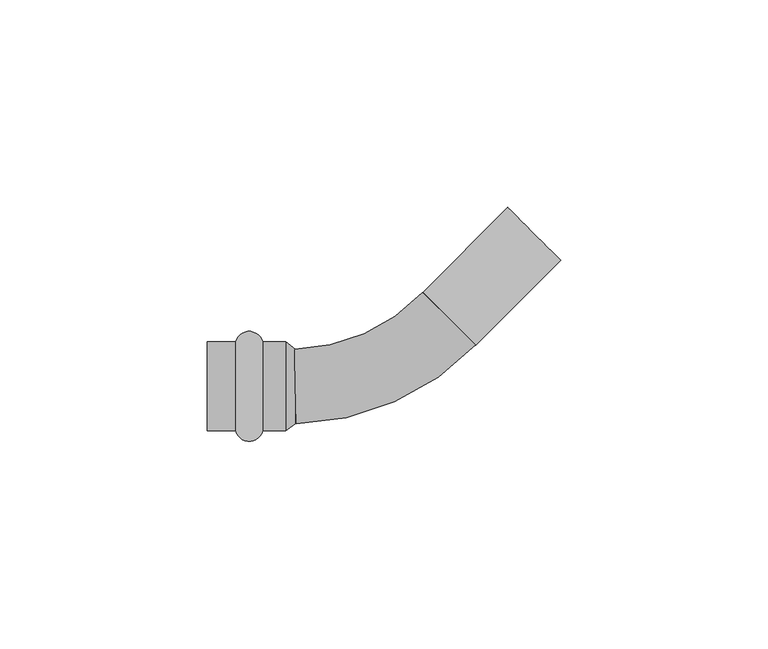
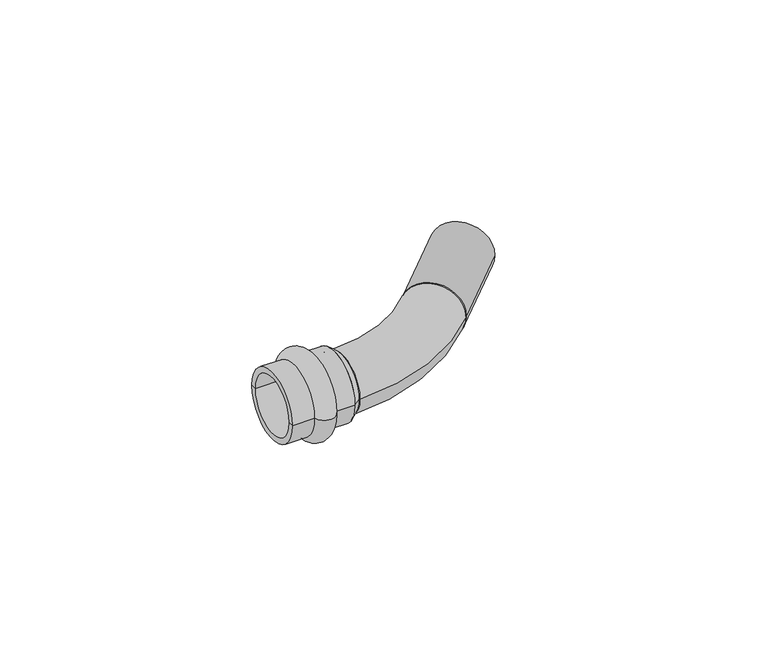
"""IFC4 building model written with IfcOpenShell, lengths in millimetres: pipe fitting geometry, VALTEC_VTi.958.I_Угольник 45° (раструб–труба) нержавеющая сталь. : VTi.958.I."""

import ifcopenshell
import ifcopenshell.guid

model = None  # the IFC model being written
_history = None  # IfcOwnerHistory: only IFC2X3 demands one
_inside = {}  # id of a spatial element -> (the spatial element, [elements in it])
_under = {}  # id of a project, library or spatial element -> (it, [spatial elements below it])
_declared = {}  # id of a project -> (the project, [libraries it declares])
_typed = {}  # id of a type object -> (the type object, [elements of that type])
_made_of = {}  # id of a material, layer set ... -> (it, [elements and type objects made of it])


def new_model(schema):
    """Start an empty IFC model of exactly this schema.

    Asked for "IFC4X3", IfcOpenShell would pick the latest addendum, in which some entities
    have other attributes; the version numbers below select the first issue.
    IFC2X3 requires an IfcOwnerHistory on every rooted entity: one is made here for all.
    """
    global model, _history
    if schema == "IFC4X3":
        model = ifcopenshell.file(schema_version=(4, 3, 0, 0))
    else:
        model = ifcopenshell.file(schema=schema)
    _inside.clear()
    _under.clear()
    _declared.clear()
    _typed.clear()
    _made_of.clear()
    _history = None
    if model.schema == "IFC2X3":
        org = make("IfcOrganization", Name="unknown")
        user = make(
            "IfcPersonAndOrganization",
            ThePerson=make("IfcPerson", FamilyName="unknown"),
            TheOrganization=org,
        )
        app = make(
            "IfcApplication",
            ApplicationDeveloper=org,
            Version="unknown",
            ApplicationFullName="unknown",
            ApplicationIdentifier="unknown",
        )
        _history = make(
            "IfcOwnerHistory",
            OwningUser=user,
            OwningApplication=app,
            ChangeAction="ADDED",
            CreationDate=0,
        )
    return model


def make(cls, **values):
    """One entity of the class cls with the attributes given. An attribute that is None is left unset."""
    return model.create_entity(
        cls, **{name: value for name, value in values.items() if value is not None}
    )


def rooted(cls, **values):
    """An entity with a GlobalId (a new one), such as an element, a storey or a relation."""
    return make(cls, GlobalId=ifcopenshell.guid.new(), OwnerHistory=_history, **values)


def si_unit(unit_type, name, prefix=None):
    """IfcSIUnit, for example si_unit("LENGTHUNIT", "METRE", prefix="MILLI")."""
    return make("IfcSIUnit", UnitType=unit_type, Prefix=prefix, Name=name)


def assignment(units):
    """IfcUnitAssignment: the units of a project."""
    return None if units is None else make("IfcUnitAssignment", Units=units)


def point(xyz):
    """IfcCartesianPoint."""
    return None if xyz is None else make("IfcCartesianPoint", Coordinates=xyz)


def direction(xyz):
    """IfcDirection."""
    return None if xyz is None else make("IfcDirection", DirectionRatios=xyz)


def frame(location, z_axis=None, x_axis=None):
    """IfcAxis2Placement3D, a coordinate frame: its origin and axes. An axis left out is left unset."""
    return make(
        "IfcAxis2Placement3D",
        Location=point(location),
        Axis=direction(z_axis),
        RefDirection=direction(x_axis),
    )


def frame_2d(location, x_axis=None):
    """IfcAxis2Placement2D, a coordinate frame in the plane: its origin and x axis."""
    return make(
        "IfcAxis2Placement2D", Location=point(location), RefDirection=direction(x_axis)
    )


def origin():
    """The frame at (0, 0, 0) with its axes left unset."""
    return frame((0.0, 0.0, 0.0))


def origin_2d():
    """The frame at (0, 0) in the plane with its x axis left unset."""
    return frame_2d((0.0, 0.0))


def place(relative_to, where):
    """IfcLocalPlacement: puts the frame where relative to a parent placement (None: the world)."""
    return make(
        "IfcLocalPlacement", PlacementRelTo=relative_to, RelativePlacement=where
    )


def context(
    kind, dimensions, precision=None, world=None, true_north=None, identifier=None
):
    """IfcGeometricRepresentationContext, for example the 3D "Model" context."""
    return make(
        "IfcGeometricRepresentationContext",
        ContextIdentifier=identifier,
        ContextType=kind,
        CoordinateSpaceDimension=dimensions,
        Precision=precision,
        WorldCoordinateSystem=world,
        TrueNorth=true_north,
    )


def project(units=None, contexts=None):
    """IfcProject with its units and contexts."""
    return rooted(
        "IfcProject",
        Name="project",
        RepresentationContexts=contexts,
        UnitsInContext=assignment(units),
    )


def spatial(cls, under=None, at=None, **own):
    """A site, building, storey or space (cls), placed at a placement, below another one or the project."""
    s = rooted(cls, ObjectPlacement=at, **own)
    if under is not None:
        _under.setdefault(under.id(), (under, []))[1].append(s)
    return s


def polyline(points):
    """IfcPolyline through the points."""
    return make("IfcPolyline", Points=[point(p) for p in points])


def circle_curve(where, radius):
    """IfcCircle in the frame where."""
    return make("IfcCircle", Position=where, Radius=radius)


def ellipse_curve(where, semi_axis1, semi_axis2):
    """IfcEllipse in the frame where."""
    return make(
        "IfcEllipse", Position=where, SemiAxis1=semi_axis1, SemiAxis2=semi_axis2
    )


def trimmed(basis, trim1, trim2, sense, master):
    """IfcTrimmedCurve: the piece of a basis curve between two trims."""
    return make(
        "IfcTrimmedCurve",
        BasisCurve=basis,
        Trim1=trim1,
        Trim2=trim2,
        SenseAgreement=sense,
        MasterRepresentation=master,
    )


def segment(curve, same_sense, transition):
    """IfcCompositeCurveSegment."""
    return make(
        "IfcCompositeCurveSegment",
        Transition=transition,
        SameSense=same_sense,
        ParentCurve=curve,
    )


def composite_curve(segments, self_intersect=None):
    """IfcCompositeCurve: segments joined end to end."""
    return make("IfcCompositeCurve", Segments=segments, SelfIntersect=self_intersect)


def outline(outer, holes=None, kind="AREA"):
    """IfcArbitraryClosedProfileDef: a profile drawn as a closed curve; with holes, ...WithVoids."""
    if holes is None:
        return make("IfcArbitraryClosedProfileDef", ProfileType=kind, OuterCurve=outer)
    return make(
        "IfcArbitraryProfileDefWithVoids",
        ProfileType=kind,
        OuterCurve=outer,
        InnerCurves=holes,
    )


def extrude(swept, where, along, depth):
    """IfcExtrudedAreaSolid: the profile swept, set in the frame where, extruded along a direction by depth."""
    return make(
        "IfcExtrudedAreaSolid",
        SweptArea=swept,
        Position=where,
        ExtrudedDirection=direction(along),
        Depth=depth,
    )


def shape(context_of_items, identifier, shape_type, items):
    """IfcShapeRepresentation: the items that make up one representation, for example the "Body"."""
    return make(
        "IfcShapeRepresentation",
        ContextOfItems=context_of_items,
        RepresentationIdentifier=identifier,
        RepresentationType=shape_type,
        Items=items,
    )


def source(mapping_origin, context_of_items, identifier, shape_type, items):
    """IfcRepresentationMap: a shape defined once, which mapped items show again and again."""
    return make(
        "IfcRepresentationMap",
        MappingOrigin=mapping_origin,
        MappedRepresentation=shape(context_of_items, identifier, shape_type, items),
    )


def transform(
    local_origin,
    x_axis=None,
    y_axis=None,
    z_axis=None,
    scale=None,
    scale2=None,
    scale3=None,
    uniform=True,
):
    """IfcCartesianTransformationOperator3D, or its non-uniform kind. x_axis, y_axis, z_axis: its Axis1, 2, 3."""
    if uniform:
        return make(
            "IfcCartesianTransformationOperator3D",
            Axis1=direction(x_axis),
            Axis2=direction(y_axis),
            LocalOrigin=point(local_origin),
            Scale=scale,
            Axis3=direction(z_axis),
        )
    return make(
        "IfcCartesianTransformationOperator3DnonUniform",
        Axis1=direction(x_axis),
        Axis2=direction(y_axis),
        LocalOrigin=point(local_origin),
        Scale=scale,
        Axis3=direction(z_axis),
        Scale2=scale2,
        Scale3=scale3,
    )


def mapped(mapping_source, mapping_target):
    """IfcMappedItem: shows the shape of a source again, moved by a transform."""
    return make(
        "IfcMappedItem", MappingSource=mapping_source, MappingTarget=mapping_target
    )


def made_of(thing, what):
    """Note that an element or type object is made of a material, layer set ...; save() writes the relation."""
    if what is not None:
        _made_of.setdefault(what.id(), (what, []))[1].append(thing)
    return thing


def element(
    cls,
    number,
    at=None,
    inside=None,
    cuts=None,
    type_object=None,
    material=None,
    context=None,
    identifier="Body",
    shape_type=None,
    held_by="IfcProductDefinitionShape",
    body=None,
    shapes=None,
    **own,
):
    """One element of the class cls, such as IfcWall. Its Tag is "e" and its number.

    at: its placement. inside: the storey or other place that contains it. cuts: it is an
    opening in that element (IfcRelVoidsElement). A single representation is given by context,
    identifier, shape_type and body (its items); several are given by shapes. held_by: the class
    of the entity that holds the representations. save() writes the other relations.
    """
    e = rooted(cls, Tag="e%d" % number, ObjectPlacement=at, **own)
    if body is not None:
        shapes = [shape(context, identifier, shape_type, body)]
    if shapes is not None:
        e.Representation = make(held_by, Representations=shapes)
    if inside is not None:
        _inside.setdefault(inside.id(), (inside, []))[1].append(e)
    if cuts is not None:
        rooted(
            "IfcRelVoidsElement", RelatingBuildingElement=cuts, RelatedOpeningElement=e
        )
    if type_object is not None:
        _typed.setdefault(type_object.id(), (type_object, []))[1].append(e)
    return made_of(e, material)


def aggregate(whole, parts):
    """IfcRelAggregates: a whole, such as a stair, and the parts it consists of."""
    return rooted("IfcRelAggregates", RelatingObject=whole, RelatedObjects=parts)


def save(model, path):
    """Write the relations noted so far, then the file.

    IfcRelAggregates (storeys below a building ...), IfcRelContainedInSpatialStructure (elements
    in a storey), IfcRelDefinesByType, IfcRelAssociatesMaterial and IfcRelDeclares: one each for
    every whole, place, type object, material and project.
    """
    for whole, parts in _under.values():
        aggregate(whole, parts)
    for where, things in _inside.values():
        rooted(
            "IfcRelContainedInSpatialStructure",
            RelatedElements=things,
            RelatingStructure=where,
        )
    for kind, things in _typed.values():
        rooted("IfcRelDefinesByType", RelatedObjects=things, RelatingType=kind)
    for what, things in _made_of.values():
        rooted("IfcRelAssociatesMaterial", RelatedObjects=things, RelatingMaterial=what)
    for by, libraries in _declared.values():
        rooted("IfcRelDeclares", RelatingContext=by, RelatedDefinitions=libraries)
    model.write(path)


def plane_surface(at):
    """IfcPlane: the flat surface through the origin of the frame at, square to its z axis."""
    return make("IfcPlane", Position=at)


def cylinder_surface(at, radius):
    """IfcCylindricalSurface: all points at the distance radius from the z axis of the frame at."""
    return make("IfcCylindricalSurface", Position=at, Radius=radius)


def revolved_surface(curve, axis_point, axis_direction):
    """IfcSurfaceOfRevolution: the curve turned about the line through axis_point along axis_direction."""
    return make(
        "IfcSurfaceOfRevolution",
        SweptCurve=make("IfcArbitraryOpenProfileDef", ProfileType="CURVE", Curve=curve),
        AxisPosition=make("IfcAxis1Placement", Location=point(axis_point), Axis=direction(axis_direction)),
    )


def advanced_brep(points, edges, surfaces, faces):
    """IfcAdvancedBrep: a solid bounded by faces that lie on surfaces and meet in shared edges.

    An edge is (start, end): straight between two places in points (the first is 0);
    or (start, end, curve); or (start, end, curve, False) where it runs against its curve.
    A face is (place in surfaces, loops), or (place, loops, False) where it looks against
    its surface's normal. A loop lists edges by number (the first is 1), with a minus sign
    where the edge is run from its end to its start. The first loop is the outer one.
    """
    corners = [point(p) for p in points]
    vertices = [make("IfcVertexPoint", VertexGeometry=c) for c in corners]
    made = []
    for start, end, *more in edges:
        made.append(
            make(
                "IfcEdgeCurve",
                EdgeStart=vertices[start],
                EdgeEnd=vertices[end],
                EdgeGeometry=more[0] if more else make("IfcPolyline", Points=[corners[start], corners[end]]),
                SameSense=more[1] if len(more) > 1 else True,
            )
        )
    hull = []
    for where, loops, *sense in faces:
        bounds = []
        for j, loop in enumerate(loops):
            ring = [make("IfcOrientedEdge", EdgeElement=made[abs(k) - 1], Orientation=k > 0) for k in loop]
            bounds.append(
                make(
                    "IfcFaceOuterBound" if j == 0 else "IfcFaceBound",
                    Bound=make("IfcEdgeLoop", EdgeList=ring),
                    Orientation=True,
                )
            )
        hull.append(make("IfcAdvancedFace", Bounds=bounds, FaceSurface=surfaces[where], SameSense=sense[0] if sense else True))
    return make("IfcAdvancedBrep", Outer=make("IfcClosedShell", CfsFaces=hull))


def pipe_fitting_f0b1162e(model_context):
    return source(origin(), model_context, "Body", "SolidModel", [
        advanced_brep(
        [(-35.2287193, -10.75, 0.0), (-35.2287193, 10.75, 0.0), (-28.6712807, 10.75, 0.0), (-28.6712807, -10.75, 0.0), (-42.0, -10.75, 0.0), (-42.0, 10.75, 0.0), (-42.0, -9.0, 0.0), (-42.0, 9.0, 0.0), (-23.1, -9.0, 0.0), (-23.1, 9.0, 0.0), (-23.1, -10.75, 0.0), (-23.1, 10.75, 0.0)],
        [
            (0, 1, circle_curve(frame((-35.2287193, 0.0, 0.0), z_axis=(1.0, 0.0, 0.0), x_axis=(0.0, 1.0, 0.0)), 10.75)),
            (1, 2, circle_curve(frame((-31.95, 9.85, 0.0), z_axis=(0.0, 0.0, -1.0), x_axis=(1.0, 0.0, 0.0)), 3.4)),
            (2, 3, circle_curve(frame((-28.6712807, 0.0, 0.0), z_axis=(-1.0, 0.0, 0.0), x_axis=(0.0, 1.0, 0.0)), 10.75)),
            (3, 0, circle_curve(frame((-31.95, -9.85, 0.0), z_axis=(0.0, 0.0, -1.0), x_axis=(1.0, 0.0, 0.0)), 3.4)),
            (1, 0, circle_curve(frame((-35.2287193, 0.0, 0.0), z_axis=(1.0, 0.0, 0.0), x_axis=(0.0, 1.0, 0.0)), 10.75)),
            (3, 2, circle_curve(frame((-28.6712807, 0.0, 0.0), z_axis=(-1.0, 0.0, 0.0), x_axis=(0.0, 1.0, 0.0)), 10.75)),
            (4, 5, circle_curve(frame((-42.0, 0.0, 0.0), z_axis=(1.0, 0.0, 0.0), x_axis=(0.0, 1.0, 0.0)), 10.75)),
            (5, 1),
            (0, 4),
            (5, 4, circle_curve(frame((-42.0, 0.0, 0.0), z_axis=(1.0, 0.0, 0.0), x_axis=(0.0, 1.0, 0.0)), 10.75)),
            (6, 7, circle_curve(frame((-42.0, 0.0, 0.0), z_axis=(1.0, 0.0, 0.0), x_axis=(0.0, 1.0, 0.0)), 9.0)),
            (7, 5),
            (4, 6),
            (7, 6, circle_curve(frame((-42.0, 0.0, 0.0), z_axis=(1.0, 0.0, 0.0), x_axis=(0.0, 1.0, 0.0)), 9.0)),
            (8, 9, circle_curve(frame((-23.1, 0.0, 0.0), z_axis=(1.0, 0.0, 0.0), x_axis=(0.0, 1.0, 0.0)), 9.0)),
            (9, 7),
            (6, 8),
            (9, 8, circle_curve(frame((-23.1, 0.0, 0.0), z_axis=(1.0, 0.0, 0.0), x_axis=(0.0, 1.0, 0.0)), 9.0)),
            (10, 11, circle_curve(frame((-23.1, 0.0, 0.0), z_axis=(1.0, 0.0, 0.0), x_axis=(0.0, 1.0, 0.0)), 10.75)),
            (11, 9),
            (8, 10),
            (11, 10, circle_curve(frame((-23.1, 0.0, 0.0), z_axis=(1.0, 0.0, 0.0), x_axis=(0.0, 1.0, 0.0)), 10.75)),
            (2, 11),
            (10, 3),
        ],
        [
            revolved_surface(trimmed(ellipse_curve(frame((-31.95, 9.85, 0.0), z_axis=(0.0, 0.0, 1.0), x_axis=(1.0, 0.0, 0.0)), 3.4, 3.4), [point((-28.6712807, 10.75, 0.0))], [point((-35.2287193, 10.75, 0.0))], True, "CARTESIAN"), (-45.5364426, 0.0, 0.0), (-1.0, 0.0, 0.0)),
            cylinder_surface(frame((-45.5364426, 0.0, 0.0), z_axis=(-1.0, 0.0, 0.0), x_axis=(0.0, 1.0, 0.0)), 10.75),
            plane_surface(frame((-42.0, 0.0, 0.0), z_axis=(-1.0, 0.0, 0.0), x_axis=(0.0, 1.0, 0.0))),
            revolved_surface(polyline([(-42.0, 9.0, 0.0), (-23.1, 9.0, 0.0)]), (-45.5364426, 0.0, 0.0), (-1.0, 0.0, 0.0)),
            plane_surface(frame((-23.1, 0.0, 0.0), z_axis=(1.0, 0.0, 0.0), x_axis=(0.0, 1.0, 0.0))),
        ],
        [
            (0, [[1, 2, 3, 4]]),
            (0, [[5, -4, 6, -2]]),
            (1, [[7, 8, -1, 9]]),
            (1, [[10, -9, -5, -8]]),
            (2, [[11, 12, -7, 13]]),
            (2, [[14, -13, -10, -12]]),
            (3, [[15, 16, -11, 17]]),
            (3, [[18, -17, -14, -16]]),
            (4, [[19, 20, -15, 21]]),
            (4, [[22, -21, -18, -20]]),
            (1, [[-3, 23, -19, 24]]),
            (1, [[-6, -24, -22, -23]]),
        ],
    ),
        extrude(outline(composite_curve([segment(trimmed(circle_curve(origin_2d(), 9.0), [point((0.0, -9.0))], [point((0.0, 9.0))], False, "CARTESIAN"), True, "CONTINUOUS"), segment(trimmed(circle_curve(origin_2d(), 9.0), [point((0.0, 9.0))], [point((0.0, -9.0))], False, "CARTESIAN"), True, "CONTINUOUS")], self_intersect=False)), frame((16.3341666, 16.3341666, 0.0), z_axis=(0.707106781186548, 0.7071067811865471, 0.0), x_axis=(0.0, 0.0, 1.0)), (0.0, 0.0, 1.0), 28.9),
        advanced_brep(
        [(-20.5776797, -8.9974952, 0.0), (-21.0023203, 8.9974952, 0.0), (22.8241331, 10.0987568, 0.0), (9.8442002, 22.5695765, 0.0)],
        [
            (0, 1, circle_curve(frame((-20.79, 0.0, 0.0), z_axis=(-0.999721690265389, -0.023591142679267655, 0.0), x_axis=(-0.023591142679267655, 0.999721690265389, 0.0)), 9.0)),
            (1, 0, circle_curve(frame((-20.79, 0.0, 0.0), z_axis=(-0.999721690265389, -0.023591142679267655, 0.0), x_axis=(-0.023591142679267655, 0.999721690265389, 0.0)), 9.0)),
            (2, 3, circle_curve(frame((16.3341666, 16.3341666, 0.0), z_axis=(0.6928233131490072, 0.7211073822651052, 0.0), x_axis=(-0.7211073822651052, 0.6928233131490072, 0.0)), 9.0)),
            (3, 2, circle_curve(frame((16.3341666, 16.3341666, 0.0), z_axis=(0.6928233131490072, 0.7211073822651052, 0.0), x_axis=(-0.7211073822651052, 0.6928233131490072, 0.0)), 9.0)),
            (3, 1, circle_curve(frame((-22.0456002, 53.2085599, 0.0), z_axis=(0.0, 0.0, -1.0), x_axis=(0.02359114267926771, -0.999721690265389, 0.0)), 44.2233725)),
            (0, 2, circle_curve(frame((-22.0456002, 53.2085599, 0.0), z_axis=(0.0, 0.0, 1.0), x_axis=(0.02359114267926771, -0.999721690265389, 0.0)), 62.2233725)),
        ],
        [
            plane_surface(frame((-20.79, 0.0, 0.0), z_axis=(-0.999721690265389, -0.023591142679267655, 0.0), x_axis=(0.0, 0.0, 1.0))),
            plane_surface(frame((16.3341666, 16.3341666, 0.0), z_axis=(0.6928233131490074, 0.7211073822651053, 0.0), x_axis=(0.0, 0.0, 1.0))),
            revolved_surface(trimmed(ellipse_curve(frame((-20.79, 0.0, 0.0), z_axis=(-0.999721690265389, -0.023591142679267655, 0.0), x_axis=(-0.023591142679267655, 0.999721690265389, 0.0)), 9.0, 9.0), [point((-20.5776797, -8.9974952, 0.0))], [point((-21.0023203, 8.9974952, 0.0))], True, "CARTESIAN"), (-22.0456002, 53.2085599, 0.0), (0.0, 0.0, 1.0)),
            revolved_surface(trimmed(ellipse_curve(frame((-20.79, 0.0, 0.0), z_axis=(-0.999721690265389, -0.023591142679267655, 0.0), x_axis=(-0.023591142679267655, 0.999721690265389, 0.0)), 9.0, 9.0), [point((-21.0023203, 8.9974952, 0.0))], [point((-20.5776797, -8.9974952, 0.0))], True, "CARTESIAN"), (-22.0456002, 53.2085599, 0.0), (0.0, 0.0, 1.0)),
        ],
        [
            (0, [[1, 2]]),
            (1, [[3, 4]]),
            (2, [[5, -1, 6, -4]]),
            (3, [[-6, -2, -5, -3]]),
        ],
    ),
        advanced_brep(
        [(-23.1, -10.75, 0.0), (-23.1, 10.75, 0.0), (-20.79, -9.0, 0.0), (-20.79, 9.0, 0.0)],
        [
            (0, 1, circle_curve(frame((-23.1, 0.0, 0.0), z_axis=(-1.0, 0.0, 0.0), x_axis=(0.0, -1.0, 0.0)), 10.75)),
            (1, 0, circle_curve(frame((-23.1, 0.0, 0.0), z_axis=(-1.0, 0.0, 0.0), x_axis=(0.0, 1.0, 0.0)), 10.75)),
            (2, 3, circle_curve(frame((-20.79, 0.0, 0.0), z_axis=(1.0, 0.0, 0.0), x_axis=(0.0, 1.0, 0.0)), 9.0)),
            (3, 2, circle_curve(frame((-20.79, 0.0, 0.0), z_axis=(1.0, 0.0, 0.0), x_axis=(0.0, -1.0, 0.0)), 9.0)),
            (2, 0),
            (1, 3),
        ],
        [
            plane_surface(frame((-23.1, 0.0, 0.0), z_axis=(-1.0, 0.0, 0.0), x_axis=(0.0, 0.0, -1.0))),
            plane_surface(frame((-20.79, 0.0, 0.0), z_axis=(1.0, 0.0, 0.0), x_axis=(0.0, 0.0, -1.0))),
            revolved_surface(polyline([(-20.79, -8.999999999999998, 0.0), (-23.1, -10.75, 0.0)]), (-8.91, 0.0, 0.0), (-1.0, 0.0, 0.0)),
            revolved_surface(polyline([(-20.79, 8.999999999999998, 0.0), (-23.1, 10.75, 0.0)]), (-8.91, 0.0, 0.0), (-1.0, 0.0, 0.0)),
        ],
        [
            (0, [[1, 2]]),
            (1, [[3, 4]]),
            (2, [[-3, 5, -2, 6]]),
            (3, [[-4, -6, -1, -5]]),
        ],
    ),
    ])


if __name__ == "__main__":
    model = new_model("IFC4")
    model_context = context("Model", 3, world=origin())
    ifc_project = project(units=[si_unit("LENGTHUNIT", "METRE", prefix="MILLI")], contexts=[model_context])
    site = spatial("IfcSite", under=ifc_project)
    building = spatial("IfcBuilding", under=site)
    placement = place(None, origin())
    pipe_fitting_shape = pipe_fitting_f0b1162e(model_context)
    element("IfcPipeFitting", 1, ObjectType="VALTEC_VTi.958.I_Угольник 45° (раструб–труба) нержавеющая сталь. : VTi.958.I", at=placement, inside=building, context=model_context, shape_type="MappedRepresentation", body=[
        mapped(pipe_fitting_shape, transform((0.0, 0.0, 0.0), x_axis=(1.0, 0.0, 0.0), y_axis=(0.0, 1.0, 0.0), z_axis=(0.0, 0.0, 1.0))),
    ])
    save(model, "model.ifc")
